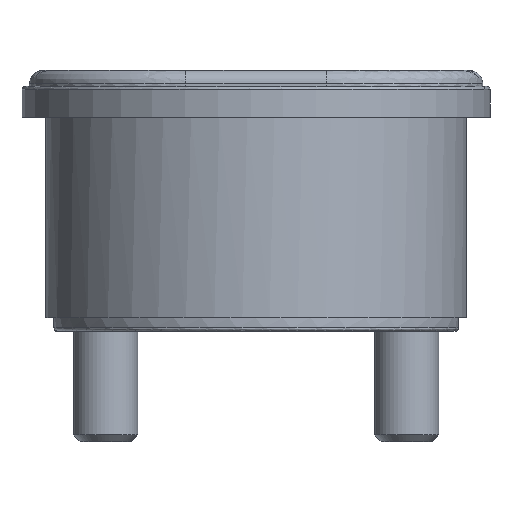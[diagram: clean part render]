
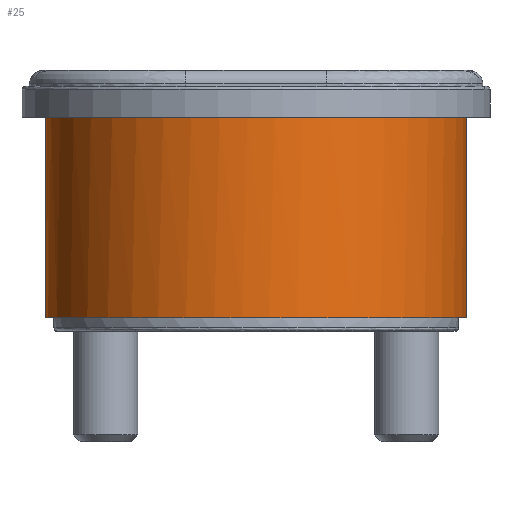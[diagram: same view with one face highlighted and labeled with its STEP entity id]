
A CAD part, front view. The second image highlights one B-rep face of the part: STEP entity #25.
In plain terms, the highlighted cylindrical face has radius 31.5 mm (diameter 63 mm), a full revolution.
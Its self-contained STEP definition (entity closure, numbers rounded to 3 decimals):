
#25=ADVANCED_FACE('',(#66),#456,.T.);
#66=FACE_OUTER_BOUND('',#103,.T.);
#103=EDGE_LOOP('',(#144,#145,#146,#147));
#144=ORIENTED_EDGE('',*,*,#276,.T.);
#145=ORIENTED_EDGE('',*,*,#277,.T.);
#146=ORIENTED_EDGE('',*,*,#278,.T.);
#147=ORIENTED_EDGE('',*,*,#277,.F.);
#276=EDGE_CURVE('',#411,#411,#346,.T.);
#277=EDGE_CURVE('',#411,#421,#347,.T.);
#278=EDGE_CURVE('',#421,#421,#348,.T.);
#346=(
BOUNDED_CURVE()
B_SPLINE_CURVE(2,(#782,#783,#784,#785,#786,#787,#788,#789,#790),
 .UNSPECIFIED.,.T.,.F.)
B_SPLINE_CURVE_WITH_KNOTS((3,2,2,2,3),(0.,49.48,98.96,
148.44,197.92),.UNSPECIFIED.)
CURVE()
GEOMETRIC_REPRESENTATION_ITEM()
RATIONAL_B_SPLINE_CURVE((1.,0.707,1.,0.707,1.,0.707,
1.,0.707,1.))
REPRESENTATION_ITEM('')
);
#347=(
BOUNDED_CURVE()
B_SPLINE_CURVE(1,(#791,#792),.UNSPECIFIED.,.F.,.F.)
B_SPLINE_CURVE_WITH_KNOTS((2,2),(0.,32.),.UNSPECIFIED.)
CURVE()
GEOMETRIC_REPRESENTATION_ITEM()
RATIONAL_B_SPLINE_CURVE((1.,1.))
REPRESENTATION_ITEM('')
);
#348=(
BOUNDED_CURVE()
B_SPLINE_CURVE(2,(#793,#794,#795,#796,#797,#798,#799,#800,#801),
 .UNSPECIFIED.,.T.,.F.)
B_SPLINE_CURVE_WITH_KNOTS((3,2,2,2,3),(-197.92,-148.44,
-98.96,-49.48,0.),.UNSPECIFIED.)
CURVE()
GEOMETRIC_REPRESENTATION_ITEM()
RATIONAL_B_SPLINE_CURVE((1.,0.707,1.,0.707,1.,0.707,
1.,0.707,1.))
REPRESENTATION_ITEM('')
);
#411=VERTEX_POINT('',#745);
#421=VERTEX_POINT('',#755);
#456=CYLINDRICAL_SURFACE('',#505,31.5);
#505=AXIS2_PLACEMENT_3D('',#567,#536,$);
#536=DIRECTION('',(0.,0.,1.));
#567=CARTESIAN_POINT('',(0.,0.,17.));
#745=CARTESIAN_POINT('',(-31.5,0.,2.));
#755=CARTESIAN_POINT('',(-31.5,0.,32.));
#782=CARTESIAN_POINT('',(-31.5,0.,2.));
#783=CARTESIAN_POINT('',(-31.5,-31.5,2.));
#784=CARTESIAN_POINT('',(0.,-31.5,2.));
#785=CARTESIAN_POINT('',(31.5,-31.5,2.));
#786=CARTESIAN_POINT('',(31.5,0.,2.));
#787=CARTESIAN_POINT('',(31.5,31.5,2.));
#788=CARTESIAN_POINT('',(0.,31.5,2.));
#789=CARTESIAN_POINT('',(-31.5,31.5,2.));
#790=CARTESIAN_POINT('',(-31.5,0.,2.));
#791=CARTESIAN_POINT('',(-31.5,0.,2.));
#792=CARTESIAN_POINT('',(-31.5,0.,32.));
#793=CARTESIAN_POINT('',(-31.5,0.,32.));
#794=CARTESIAN_POINT('',(-31.5,31.5,32.));
#795=CARTESIAN_POINT('',(0.,31.5,32.));
#796=CARTESIAN_POINT('',(31.5,31.5,32.));
#797=CARTESIAN_POINT('',(31.5,0.,32.));
#798=CARTESIAN_POINT('',(31.5,-31.5,32.));
#799=CARTESIAN_POINT('',(0.,-31.5,32.));
#800=CARTESIAN_POINT('',(-31.5,-31.5,32.));
#801=CARTESIAN_POINT('',(-31.5,0.,32.));
